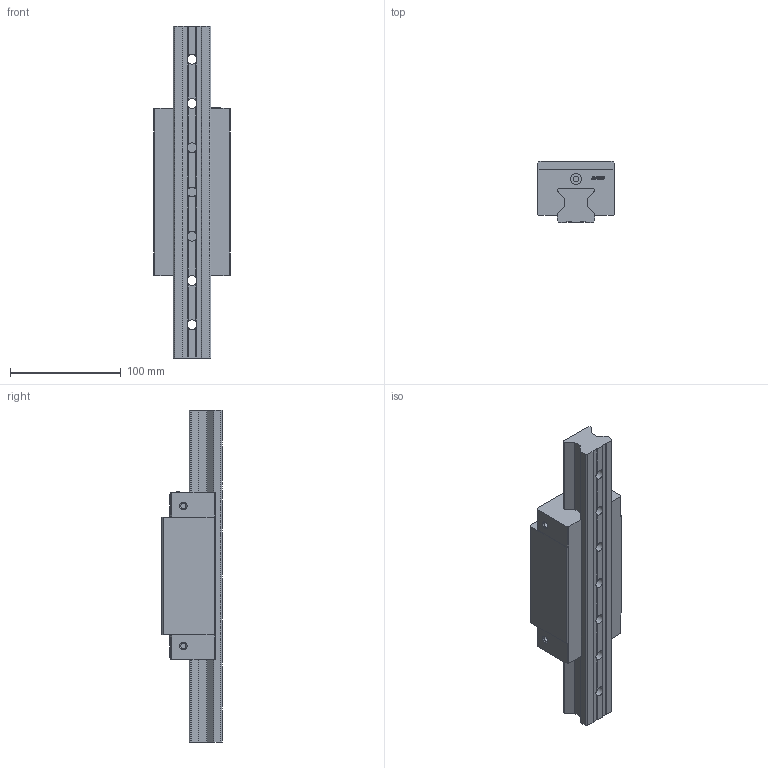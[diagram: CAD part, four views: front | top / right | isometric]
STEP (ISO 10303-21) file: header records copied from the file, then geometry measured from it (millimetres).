
FILE_DESCRIPTION(/* description */ (''),/* implementation_level */ '2;1');
FILE_NAME(/* name */ 'SRH35HA.stp',/* time_stamp */ '2022-01-22T15:16:43+08:00',/* author */ (''),/* organization */ (''),/* preprocessor_version */ 'ST-DEVELOPER v15',/* originating_system */ 'SIEMENS PLM Software NX 8.5',/* authorisation */ '');
FILE_SCHEMA (('CONFIG_CONTROL_DESIGN'));
Length unit declared in the file: millimetre
Products named in the file (1): _model1
Bounding box: 70 x 55 x 300 mm (x, y, z)
Volume: 618150.9 mm3; surface area: 100114.5 mm2
Topology: 2 solids, 2 shells, 274 faces, 766 edges, 515 vertices
Faces by surface type: plane 150, extrusion 86, cylinder 28, cone 10
Full cylindrical faces by diameter (mm): 5 x6, 6.75 x6, 9 x7, 10.3 x2, 14 x7
Entity records: 9341 total; most frequent: CARTESIAN_POINT 2584, ORIENTED_EDGE 1436, DIRECTION 1145, EDGE_CURVE 718, VERTEX_POINT 505, VECTOR 497, LINE 411, EDGE_LOOP 345
